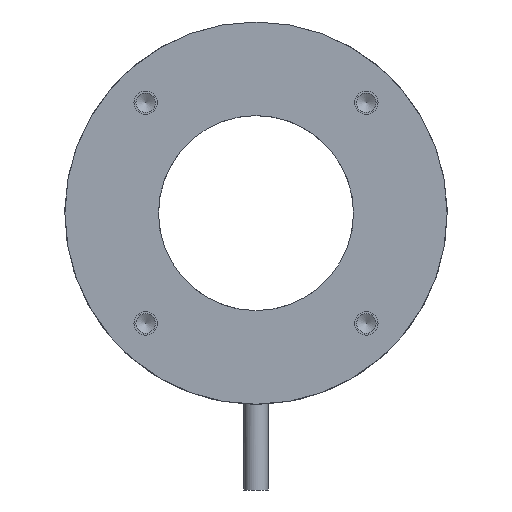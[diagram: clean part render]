
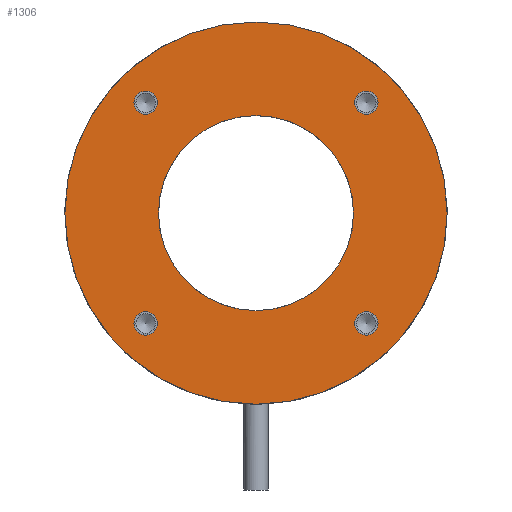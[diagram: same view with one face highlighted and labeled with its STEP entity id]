
A CAD part, front view. The second image highlights one B-rep face of the part: STEP entity #1306.
In plain terms, the highlighted planar face has unit normal (0, -1, 0).
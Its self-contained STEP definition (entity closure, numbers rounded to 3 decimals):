
#37=FACE_BOUND('',#205,.T.);
#38=FACE_BOUND('',#206,.T.);
#39=FACE_BOUND('',#207,.T.);
#40=FACE_BOUND('',#208,.T.);
#41=FACE_BOUND('',#209,.T.);
#64=PLANE('',#1469);
#122=FACE_OUTER_BOUND('',#204,.T.);
#204=EDGE_LOOP('',(#1022));
#205=EDGE_LOOP('',(#1023));
#206=EDGE_LOOP('',(#1024));
#207=EDGE_LOOP('',(#1025));
#208=EDGE_LOOP('',(#1026));
#209=EDGE_LOOP('',(#1027));
#390=CIRCLE('',#1388,1.5);
#393=CIRCLE('',#1392,1.5);
#394=CIRCLE('',#1394,24.5);
#397=CIRCLE('',#1398,12.5);
#402=CIRCLE('',#1404,1.5);
#432=CIRCLE('',#1448,1.5);
#527=VERTEX_POINT('',#2177);
#530=VERTEX_POINT('',#2185);
#531=VERTEX_POINT('',#2189);
#534=VERTEX_POINT('',#2197);
#539=VERTEX_POINT('',#2209);
#575=VERTEX_POINT('',#2369);
#679=EDGE_CURVE('',#527,#527,#390,.T.);
#683=EDGE_CURVE('',#530,#530,#393,.T.);
#684=EDGE_CURVE('',#531,#531,#394,.T.);
#688=EDGE_CURVE('',#534,#534,#397,.T.);
#695=EDGE_CURVE('',#539,#539,#402,.T.);
#739=EDGE_CURVE('',#575,#575,#432,.T.);
#1022=ORIENTED_EDGE('',*,*,#684,.T.);
#1023=ORIENTED_EDGE('',*,*,#679,.T.);
#1024=ORIENTED_EDGE('',*,*,#695,.T.);
#1025=ORIENTED_EDGE('',*,*,#683,.T.);
#1026=ORIENTED_EDGE('',*,*,#688,.T.);
#1027=ORIENTED_EDGE('',*,*,#739,.F.);
#1306=ADVANCED_FACE('',(#122,#37,#38,#39,#40,#41),#64,.F.);
#1388=AXIS2_PLACEMENT_3D('',#2179,#1611,#1612);
#1392=AXIS2_PLACEMENT_3D('',#2187,#1620,#1621);
#1394=AXIS2_PLACEMENT_3D('',#2190,#1624,#1625);
#1398=AXIS2_PLACEMENT_3D('',#2198,#1633,#1634);
#1404=AXIS2_PLACEMENT_3D('',#2211,#1647,#1648);
#1448=AXIS2_PLACEMENT_3D('',#2371,#1745,#1746);
#1469=AXIS2_PLACEMENT_3D('',#2461,#1801,#1802);
#1611=DIRECTION('center_axis',(0.,1.,0.));
#1612=DIRECTION('ref_axis',(0.,0.,-1.));
#1620=DIRECTION('center_axis',(0.,1.,0.));
#1621=DIRECTION('ref_axis',(0.,0.,-1.));
#1624=DIRECTION('center_axis',(0.,-1.,0.));
#1625=DIRECTION('ref_axis',(0.,0.,-1.));
#1633=DIRECTION('center_axis',(0.,1.,0.));
#1634=DIRECTION('ref_axis',(0.,0.,1.));
#1647=DIRECTION('center_axis',(0.,1.,0.));
#1648=DIRECTION('ref_axis',(0.,0.,-1.));
#1745=DIRECTION('center_axis',(0.,-1.,0.));
#1746=DIRECTION('ref_axis',(0.,0.,-1.));
#1801=DIRECTION('center_axis',(0.,1.,0.));
#1802=DIRECTION('ref_axis',(0.,0.,1.));
#2177=CARTESIAN_POINT('',(-14.142,0.,-12.642));
#2179=CARTESIAN_POINT('Origin',(-14.142,0.,
-14.142));
#2185=CARTESIAN_POINT('',(-14.142,0.,15.642));
#2187=CARTESIAN_POINT('Origin',(-14.142,0.,
14.142));
#2189=CARTESIAN_POINT('',(0.,0.,24.5));
#2190=CARTESIAN_POINT('Origin',(0.,0.,
0.));
#2197=CARTESIAN_POINT('',(0.,0.,-12.5));
#2198=CARTESIAN_POINT('Origin',(0.,0.,
0.));
#2209=CARTESIAN_POINT('',(14.142,0.,15.642));
#2211=CARTESIAN_POINT('Origin',(14.142,0.,
14.142));
#2369=CARTESIAN_POINT('',(14.142,0.,-12.642));
#2371=CARTESIAN_POINT('Origin',(14.142,0.,
-14.142));
#2461=CARTESIAN_POINT('Origin',(0.,0.,
0.));
